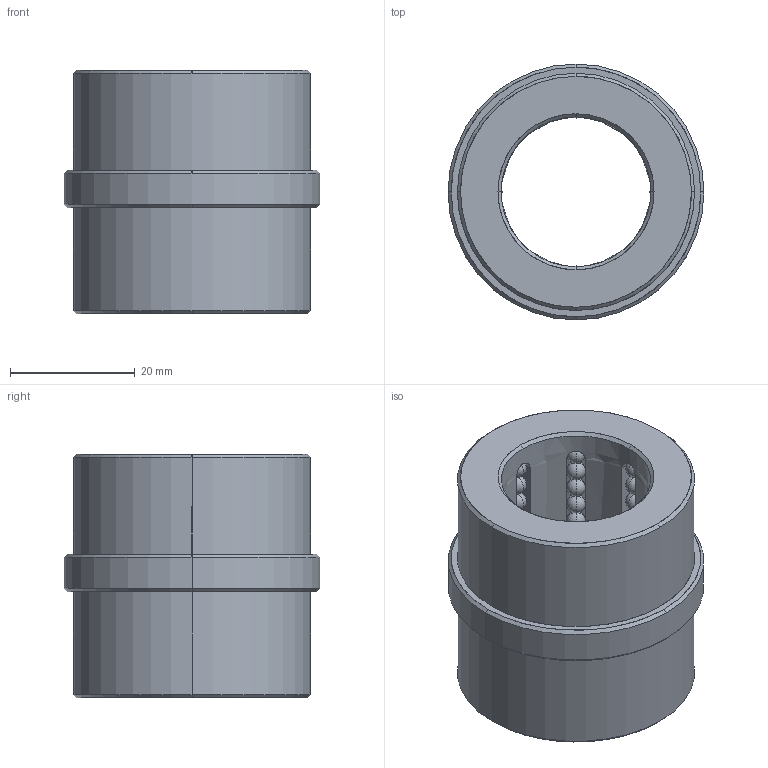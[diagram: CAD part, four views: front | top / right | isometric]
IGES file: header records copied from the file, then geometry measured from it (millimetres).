
Start section: START RECORD GO HERE.
Global section: file name: B8452422.igs; native system: DASSAULT SYSTEMES CATIA V5 R20 - www.3ds.com; preprocessor: CATIA Version 5 Release 20 ; author: Utente; organization: NB04-ASUS; date: 20200419.201519; units: millimetre
Bounding box: 41 x 41 x 39 mm (x, y, z)
Surface area: 13054.7 mm2 (no closed solid volume)
Topology: 0 solids, 0 shells, 396 faces, 1652 edges, 1012 vertices
Faces by surface type: revolution 368, plane 28
